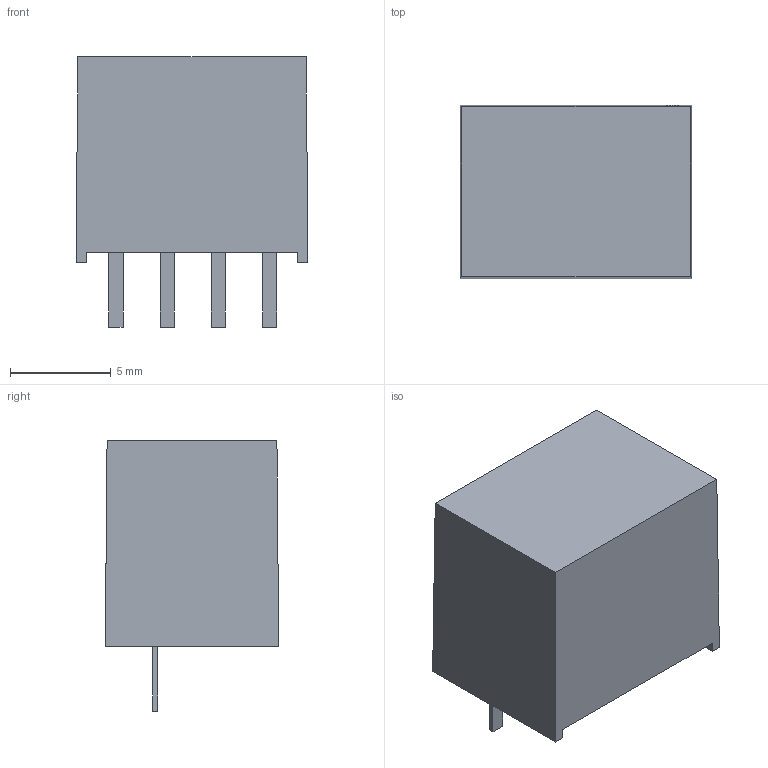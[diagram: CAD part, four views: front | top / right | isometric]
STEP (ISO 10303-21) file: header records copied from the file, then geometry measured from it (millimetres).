
FILE_DESCRIPTION (( 'STEP AP203' ), '1' );
FILE_NAME ('SIP TMU 3 (MBSU03)11.5x10.2x8.6.STEP', '2022-03-23T09:41:46', ( '' ), ( '' ), 'SwSTEP 2.0', 'SolidWorks 2021', '' );
FILE_SCHEMA (( 'CONFIG_CONTROL_DESIGN' ));
Length unit declared in the file: millimetre
Products named in the file (1): SIP TMU 3 (MBSU03)11.5x10.2x8.6
Bounding box: 11.5 x 8.6 x 13.4 mm (x, y, z)
Volume: 948.1 mm3; surface area: 626.8 mm2
Topology: 1 solids, 1 shells, 33 faces, 78 edges, 52 vertices
Faces by surface type: plane 31, cylinder 2
Entity records: 1013 total; most frequent: CARTESIAN_POINT 164, ORIENTED_EDGE 156, DIRECTION 150, EDGE_CURVE 78, VECTOR 74, LINE 74, VERTEX_POINT 52, AXIS2_PLACEMENT_3D 38
